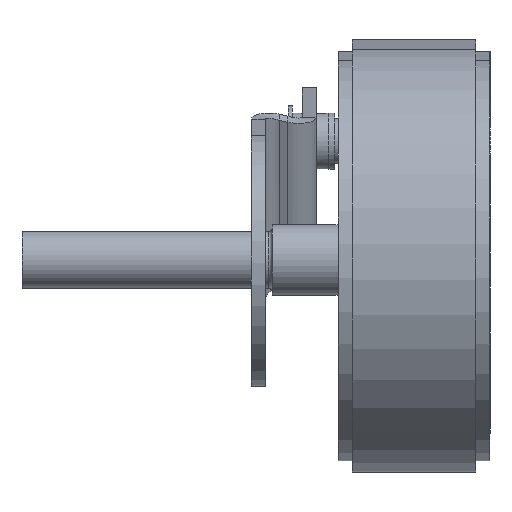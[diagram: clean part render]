
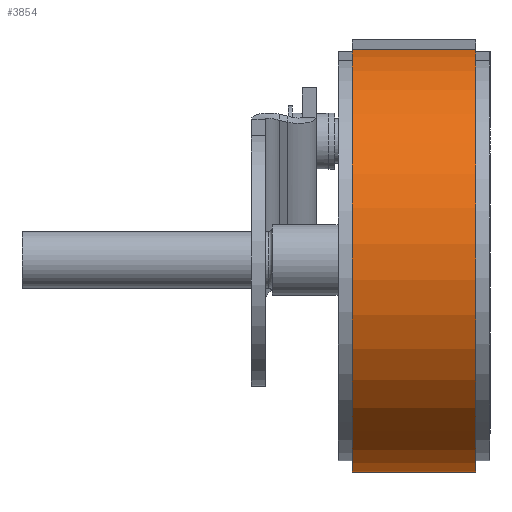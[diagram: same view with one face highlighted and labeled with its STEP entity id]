
A CAD part, left-side view. The second image highlights one B-rep face of the part: STEP entity #3854.
In plain terms, the highlighted cylindrical face has radius 75.5 mm (diameter 151 mm), a partial arc.
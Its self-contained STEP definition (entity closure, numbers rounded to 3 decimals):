
#418=FACE_OUTER_BOUND('',#669,.T.);
#669=EDGE_LOOP('',(#3339,#3340,#3341,#3342));
#996=LINE('',#7010,#1336);
#1002=LINE('',#7022,#1342);
#1336=VECTOR('',#5253,10.);
#1342=VECTOR('',#5263,10.);
#1510=CIRCLE('',#4231,75.5);
#1511=CIRCLE('',#4232,75.5);
#1835=VERTEX_POINT('',#7008);
#1836=VERTEX_POINT('',#7009);
#1839=VERTEX_POINT('',#7020);
#1840=VERTEX_POINT('',#7021);
#2341=EDGE_CURVE('',#1835,#1836,#996,.T.);
#2347=EDGE_CURVE('',#1839,#1840,#1002,.T.);
#2348=EDGE_CURVE('',#1840,#1836,#1510,.T.);
#2349=EDGE_CURVE('',#1839,#1835,#1511,.T.);
#3339=ORIENTED_EDGE('',*,*,#2347,.T.);
#3340=ORIENTED_EDGE('',*,*,#2348,.T.);
#3341=ORIENTED_EDGE('',*,*,#2341,.F.);
#3342=ORIENTED_EDGE('',*,*,#2349,.F.);
#3463=CYLINDRICAL_SURFACE('',#4230,75.5);
#3854=ADVANCED_FACE('',(#418),#3463,.T.);
#4230=AXIS2_PLACEMENT_3D('',#7019,#5261,#5262);
#4231=AXIS2_PLACEMENT_3D('',#7023,#5264,#5265);
#4232=AXIS2_PLACEMENT_3D('',#7024,#5266,#5267);
#5253=DIRECTION('',(0.,1.,0.));
#5261=DIRECTION('center_axis',(0.,-1.,0.));
#5262=DIRECTION('ref_axis',(-0.966,0.,-0.259));
#5263=DIRECTION('',(0.,1.,0.));
#5264=DIRECTION('center_axis',(0.,-1.,0.));
#5265=DIRECTION('ref_axis',(-0.139,0.,0.99));
#5266=DIRECTION('center_axis',(0.,-1.,0.));
#5267=DIRECTION('ref_axis',(-0.139,0.,0.99));
#7008=CARTESIAN_POINT('',(-219.717,-22.,-112.202));
#7009=CARTESIAN_POINT('',(-219.717,22.,-112.202));
#7010=CARTESIAN_POINT('',(-219.717,22.,-112.202));
#7019=CARTESIAN_POINT('Origin',(-248.,0.,-42.2));
#7020=CARTESIAN_POINT('',(-258.508,-22.,32.565));
#7021=CARTESIAN_POINT('',(-258.508,22.,32.565));
#7022=CARTESIAN_POINT('',(-258.508,22.,32.565));
#7023=CARTESIAN_POINT('Origin',(-248.,22.,-42.2));
#7024=CARTESIAN_POINT('Origin',(-248.,-22.,-42.2));
